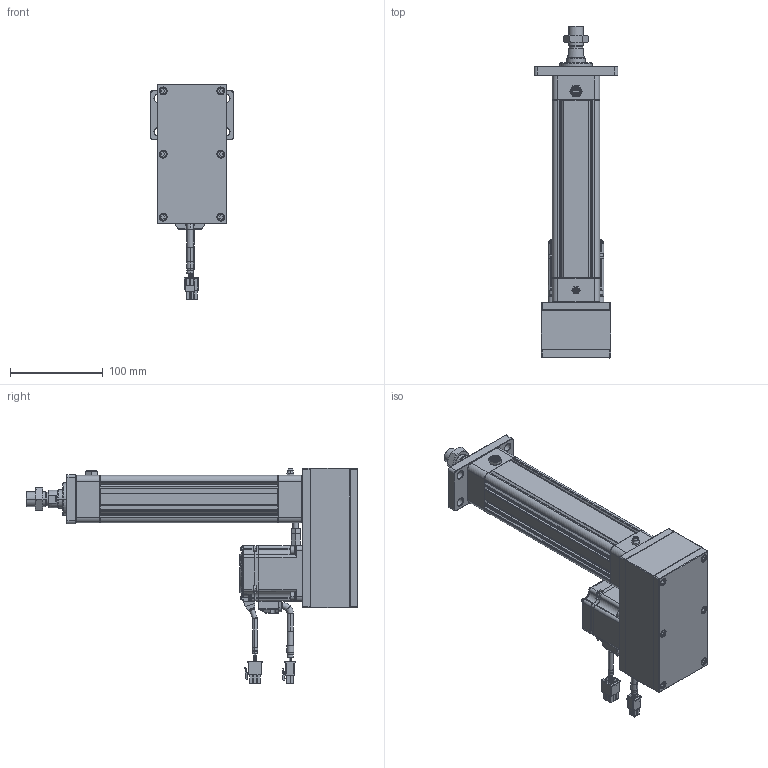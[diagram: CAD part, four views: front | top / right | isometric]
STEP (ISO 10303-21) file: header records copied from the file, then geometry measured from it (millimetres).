
FILE_DESCRIPTION((''),'2;1');
FILE_NAME('HE40-D-100_ASM','2020-04-17T',('ASUS20200'),(''),'CREO PARAMETRIC BY PTC INC, 2014190','CREO PARAMETRIC BY PTC INC, 2014190','');
FILE_SCHEMA(('CONFIG_CONTROL_DESIGN'));
Products named in the file (34): HE40-D-P-001-X1; HE40-D-P-002-X1; HE40-D-P-003-X1; 6200ZZ; SLM-01; YZ-M6X1; JDB202820; HE40-P-010-X1-200W; _MHMF022L1A2; _CABLE_MOTOR_BOTTOM_03; _CABLE_MOTOR_TOP_03; _MOTOR_CONNECTOR_2; _CABLE_BRAKE_BOTTOM_03; _CABLE_BRAKE_TOP_03; _MHMF_CONNECTOR_9_PIN_A6; MHMF022L1A2M2_1_ASM; MHMF022L1A2M2_ASM; JX5X5X20; TD-5; M5X20; LM-M6X1; M6X25; LM-M6-15; M6; HE40-P-012-X2; HE40-P-014-X1; M4X65; HE40-D-P-005-X1; HE40-D-P-004-X1; HE40-D-P-008-X1; LGLM-M6-22; F-SI40FA; M6X16; HE40-D-100_ASM
Assembly tree (53 placements, depth 4):
  HE40-D-100_ASM
    HE40-D-P-001-X1
    HE40-D-P-002-X1
    HE40-D-P-003-X1
    6200ZZ
    SLM-01
    YZ-M6X1
    JDB202820
    HE40-P-010-X1-200W
    MHMF022L1A2M2_ASM
      MHMF022L1A2M2_1_ASM
        _MHMF022L1A2
        _CABLE_MOTOR_BOTTOM_03
        _CABLE_MOTOR_TOP_03
        _MOTOR_CONNECTOR_2
        _CABLE_BRAKE_BOTTOM_03
        _CABLE_BRAKE_TOP_03
        _MHMF_CONNECTOR_9_PIN_A6
    JX5X5X20
    TD-5  x4
    M5X20  x4
    LM-M6X1  x4
    M6X25
    LM-M6-15
    M6
    HE40-P-012-X2
    HE40-P-014-X1
    M4X65  x6
    HE40-D-P-005-X1
    HE40-D-P-004-X1
    HE40-D-P-008-X1
    LGLM-M6-22  x4
    F-SI40FA
    M6X16  x4
Bounding box: 90 x 357.5 x 232.7 mm (x, y, z)
Volume: 914930.4 mm3; surface area: 330599.5 mm2
Topology: 51 solids, 78 shells, 2968 faces, 7054 edges, 4343 vertices
Faces by surface type: plane 1251, cylinder 809, cone 712, torus 158, sphere 34, bspline 4
Entity records: 76115 total; most frequent: CARTESIAN_POINT 14526, DIRECTION 13485, ORIENTED_EDGE 12096, EDGE_CURVE 6096, AXIS2_PLACEMENT_3D 5030, VERTEX_POINT 3784, VECTOR 3425, LINE 3425
